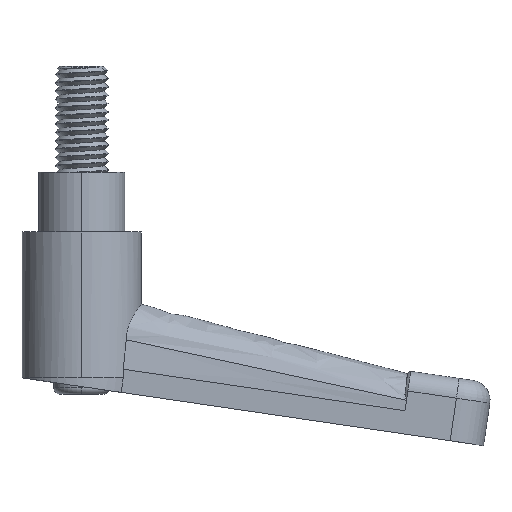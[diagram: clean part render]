
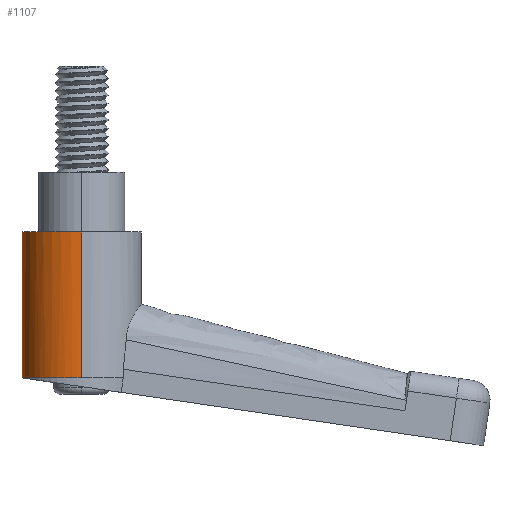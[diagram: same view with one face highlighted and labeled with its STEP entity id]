
A CAD part, left-side view. The second image highlights one B-rep face of the part: STEP entity #1107.
In plain terms, the highlighted cylindrical face has radius 9 mm (diameter 18 mm), a partial arc.
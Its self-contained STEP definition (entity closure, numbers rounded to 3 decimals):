
#73 = FACE_OUTER_BOUND ( 'NONE', #4615, .T. ) ;
#104 = B_SPLINE_CURVE_WITH_KNOTS ( 'NONE', 3,
 ( #3635, #1074, #4061, #1500, #4497, #1912, #4921, #2342, #5358, #2773, #268, #3219, #680, #3656, #1095, #4086 ),
 .UNSPECIFIED., .F., .F.,
 ( 4, 2, 2, 2, 2, 2, 2, 4 ),
 ( 0.007, 0.009, 0.01, 0.01, 0.014, 0.017, 0.019, 0.021 ),
 .UNSPECIFIED. ) ;
#178 = CARTESIAN_POINT ( 'NONE',  ( -2.901, 8.54, -31. ) ) ;
#268 = CARTESIAN_POINT ( 'NONE',  ( 4.537, 7.861, -31. ) ) ;
#612 = CARTESIAN_POINT ( 'NONE',  ( -8.712, 2.333, -31. ) ) ;
#680 = CARTESIAN_POINT ( 'NONE',  ( 2.337, 8.711, -31. ) ) ;
#856 = LINE ( 'NONE', #2192, #3098 ) ;
#924 = ORIENTED_EDGE ( 'NONE', *, *, #3781, .T. ) ;
#951 = CARTESIAN_POINT ( 'NONE',  ( -9., 0., -9. ) ) ;
#1023 = CARTESIAN_POINT ( 'NONE',  ( -8.089, 3.989, -31. ) ) ;
#1043 = CARTESIAN_POINT ( 'NONE',  ( -9., 0., -31. ) ) ;
#1074 = CARTESIAN_POINT ( 'NONE',  ( 9., 0.584, -31. ) ) ;
#1087 = CARTESIAN_POINT ( 'NONE',  ( -2.334, 8.712, -31. ) ) ;
#1095 = CARTESIAN_POINT ( 'NONE',  ( 0.591, 9., -31. ) ) ;
#1107 = ADVANCED_FACE ( 'NONE', ( #73 ), #3528, .T. ) ;
#1142 = B_SPLINE_CURVE_WITH_KNOTS ( 'NONE', 3,
 ( #2678, #3602, #4503, #1087, #178, #3205, #1387, #2239, #1441, #4813, #1023, #3585, #612, #4946, #3246, #4402 ),
 .UNSPECIFIED., .F., .F.,
 ( 4, 2, 2, 2, 2, 2, 2, 4 ),
 ( 0.021, 0.023, 0.024, 0.028, 0.03, 0.031, 0.033, 0.035 ),
 .UNSPECIFIED. ) ;
#1257 = VERTEX_POINT ( 'NONE', #951 ) ;
#1319 = ORIENTED_EDGE ( 'NONE', *, *, #4770, .T. ) ;
#1383 = CARTESIAN_POINT ( 'NONE',  ( 9., 0., -9. ) ) ;
#1387 = CARTESIAN_POINT ( 'NONE',  ( -5.531, 7.197, -31. ) ) ;
#1441 = CARTESIAN_POINT ( 'NONE',  ( -7.155, 5.491, -31. ) ) ;
#1460 = EDGE_CURVE ( 'NONE', #3443, #5439, #856, .T. ) ;
#1475 = DIRECTION ( 'NONE',  ( 0., 0., 1. ) ) ;
#1500 = CARTESIAN_POINT ( 'NONE',  ( 8.773, 2.029, -31. ) ) ;
#1568 = DIRECTION ( 'NONE',  ( 0., 0., -1. ) ) ;
#1636 = ORIENTED_EDGE ( 'NONE', *, *, #1841, .T. ) ;
#1840 = CARTESIAN_POINT ( 'NONE',  ( 9., 0., -31. ) ) ;
#1841 = EDGE_CURVE ( 'NONE', #2560, #3879, #1142, .T. ) ;
#1865 = ORIENTED_EDGE ( 'NONE', *, *, #5187, .T. ) ;
#1912 = CARTESIAN_POINT ( 'NONE',  ( 8.532, 2.881, -31. ) ) ;
#2192 = CARTESIAN_POINT ( 'NONE',  ( 9., 0., -31. ) ) ;
#2239 = CARTESIAN_POINT ( 'NONE',  ( -6.78, 5.948, -31. ) ) ;
#2342 = CARTESIAN_POINT ( 'NONE',  ( 7.87, 4.523, -31. ) ) ;
#2560 = VERTEX_POINT ( 'NONE', #4871 ) ;
#2678 = CARTESIAN_POINT ( 'NONE',  ( 0., 9., -31. ) ) ;
#2773 = CARTESIAN_POINT ( 'NONE',  ( 5.537, 7.192, -31. ) ) ;
#3036 = ORIENTED_EDGE ( 'NONE', *, *, #1460, .F. ) ;
#3098 = VECTOR ( 'NONE', #4285, 1000. ) ;
#3183 = LINE ( 'NONE', #1043, #5480 ) ;
#3205 = CARTESIAN_POINT ( 'NONE',  ( -4.532, 7.864, -31. ) ) ;
#3219 = CARTESIAN_POINT ( 'NONE',  ( 2.904, 8.539, -31. ) ) ;
#3246 = CARTESIAN_POINT ( 'NONE',  ( -9., 0.588, -31. ) ) ;
#3439 = DIRECTION ( 'NONE',  ( 1., 0., 0. ) ) ;
#3443 = VERTEX_POINT ( 'NONE', #1840 ) ;
#3528 = CYLINDRICAL_SURFACE ( 'NONE', #5309, 9. ) ;
#3585 = CARTESIAN_POINT ( 'NONE',  ( -8.541, 2.899, -31. ) ) ;
#3602 = CARTESIAN_POINT ( 'NONE',  ( -0.59, 9., -31. ) ) ;
#3635 = CARTESIAN_POINT ( 'NONE',  ( 9., 0., -31. ) ) ;
#3656 = CARTESIAN_POINT ( 'NONE',  ( 1.18, 8.942, -31. ) ) ;
#3725 = CARTESIAN_POINT ( 'NONE',  ( -9., 0., -31. ) ) ;
#3754 = CIRCLE ( 'NONE', #4258, 9. ) ;
#3781 = EDGE_CURVE ( 'NONE', #3879, #1257, #3183, .T. ) ;
#3879 = VERTEX_POINT ( 'NONE', #3725 ) ;
#4061 = CARTESIAN_POINT ( 'NONE',  ( 8.944, 1.165, -31. ) ) ;
#4086 = CARTESIAN_POINT ( 'NONE',  ( 0., 9., -31. ) ) ;
#4136 = CARTESIAN_POINT ( 'NONE',  ( 0., 0., -9. ) ) ;
#4245 = DIRECTION ( 'NONE',  ( 0., 0., 1. ) ) ;
#4258 = AXIS2_PLACEMENT_3D ( 'NONE', #4136, #1568, #4571 ) ;
#4285 = DIRECTION ( 'NONE',  ( 0., 0., 1. ) ) ;
#4402 = CARTESIAN_POINT ( 'NONE',  ( -9., 0., -31. ) ) ;
#4497 = CARTESIAN_POINT ( 'NONE',  ( 8.702, 2.316, -31. ) ) ;
#4503 = CARTESIAN_POINT ( 'NONE',  ( -1.178, 8.942, -31. ) ) ;
#4571 = DIRECTION ( 'NONE',  ( -1., 0., 0. ) ) ;
#4615 = EDGE_LOOP ( 'NONE', ( #1636, #924, #1865, #3036, #1319 ) ) ;
#4618 = CARTESIAN_POINT ( 'NONE',  ( 0., 0., -31. ) ) ;
#4770 = EDGE_CURVE ( 'NONE', #3443, #2560, #104, .T. ) ;
#4813 = CARTESIAN_POINT ( 'NONE',  ( -7.811, 4.51, -31. ) ) ;
#4871 = CARTESIAN_POINT ( 'NONE',  ( 0., 9., -31. ) ) ;
#4921 = CARTESIAN_POINT ( 'NONE',  ( 8.433, 3.158, -31. ) ) ;
#4946 = CARTESIAN_POINT ( 'NONE',  ( -8.942, 1.178, -31. ) ) ;
#5187 = EDGE_CURVE ( 'NONE', #1257, #5439, #3754, .T. ) ;
#5309 = AXIS2_PLACEMENT_3D ( 'NONE', #4618, #4245, #3439 ) ;
#5358 = CARTESIAN_POINT ( 'NONE',  ( 7.203, 5.523, -31. ) ) ;
#5439 = VERTEX_POINT ( 'NONE', #1383 ) ;
#5480 = VECTOR ( 'NONE', #1475, 1000. ) ;
